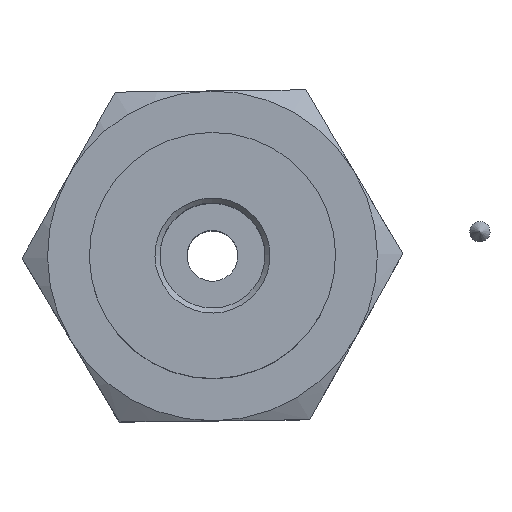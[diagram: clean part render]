
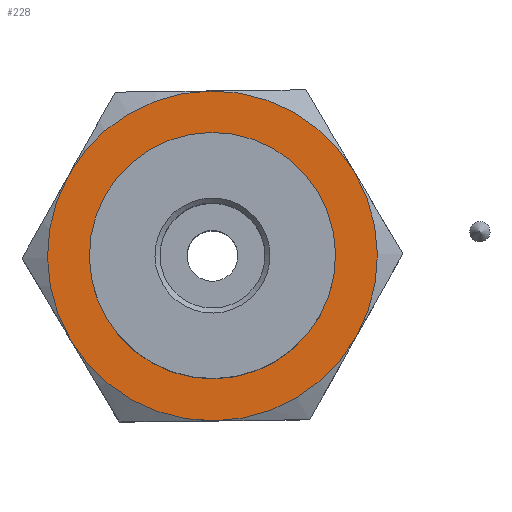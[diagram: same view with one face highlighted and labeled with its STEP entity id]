
A CAD part, top view. The second image highlights one B-rep face of the part: STEP entity #228.
In plain terms, the highlighted planar face has unit normal (0, 0, 1) as drawn and (1, 0, 0) by its records, which use the part's own axes.
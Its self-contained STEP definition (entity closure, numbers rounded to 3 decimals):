
#228=ADVANCED_FACE('',(#468,#469),#470,.F.);
#468=FACE_OUTER_BOUND('',#762,.T.);
#469=FACE_BOUND('',#763,.T.);
#470=PLANE('',#764);
#762=EDGE_LOOP('',(#1136,#1137,#1138,#1139,#1140,#1141));
#763=EDGE_LOOP('',(#1142));
#764=AXIS2_PLACEMENT_3D('',#1143,#1144,#1145);
#1136=ORIENTED_EDGE('',*,*,#1667,.F.);
#1137=ORIENTED_EDGE('',*,*,#1648,.F.);
#1138=ORIENTED_EDGE('',*,*,#1681,.F.);
#1139=ORIENTED_EDGE('',*,*,#1658,.F.);
#1140=ORIENTED_EDGE('',*,*,#1675,.F.);
#1141=ORIENTED_EDGE('',*,*,#1694,.F.);
#1142=ORIENTED_EDGE('',*,*,#1695,.T.);
#1143=CARTESIAN_POINT('',(2.5,11.258,6.5));
#1144=DIRECTION('',(-1.0,0.,0.0));
#1145=DIRECTION('',(0.0,0.0,1.0));
#1648=EDGE_CURVE('',#1881,#1877,#1882,.T.);
#1658=EDGE_CURVE('',#1898,#1894,#1899,.T.);
#1667=EDGE_CURVE('',#1877,#1908,#1912,.T.);
#1675=EDGE_CURVE('',#1920,#1898,#1924,.T.);
#1681=EDGE_CURVE('',#1894,#1881,#1931,.T.);
#1694=EDGE_CURVE('',#1908,#1920,#1950,.T.);
#1695=EDGE_CURVE('',#1951,#1951,#1952,.T.);
#1877=VERTEX_POINT('',#2202);
#1881=VERTEX_POINT('',#2214);
#1882=CIRCLE('',#2215,6.5);
#1894=VERTEX_POINT('',#2241);
#1898=VERTEX_POINT('',#2253);
#1899=CIRCLE('',#2254,6.5);
#1908=VERTEX_POINT('',#2276);
#1912=CIRCLE('',#2288,6.5);
#1920=VERTEX_POINT('',#2305);
#1924=CIRCLE('',#2317,6.5);
#1931=CIRCLE('',#2332,6.5);
#1950=CIRCLE('',#2355,6.5);
#1951=VERTEX_POINT('',#2356);
#1952=CIRCLE('',#2357,4.0);
#2202=CARTESIAN_POINT('',(2.5,-5.629,3.25));
#2214=CARTESIAN_POINT('',(2.5,-5.629,-3.25));
#2215=AXIS2_PLACEMENT_3D('',#2619,#2620,#2621);
#2241=CARTESIAN_POINT('',(2.5,0.,-6.5));
#2253=CARTESIAN_POINT('',(2.5,5.629,-3.25));
#2254=AXIS2_PLACEMENT_3D('',#2624,#2625,#2626);
#2276=CARTESIAN_POINT('',(2.5,0.0,6.5));
#2288=AXIS2_PLACEMENT_3D('',#2628,#2629,#2630);
#2305=CARTESIAN_POINT('',(2.5,5.629,3.25));
#2317=AXIS2_PLACEMENT_3D('',#2632,#2633,#2634);
#2332=AXIS2_PLACEMENT_3D('',#2638,#2639,#2640);
#2355=AXIS2_PLACEMENT_3D('',#2659,#2660,#2661);
#2356=CARTESIAN_POINT('',(2.5,0.0,4.0));
#2357=AXIS2_PLACEMENT_3D('',#2662,#2663,#2664);
#2619=CARTESIAN_POINT('',(2.5,0.,0.0));
#2620=DIRECTION('',(-1.0,0.,0.0));
#2621=DIRECTION('',(0.,-1.0,0.0));
#2624=CARTESIAN_POINT('',(2.5,0.,0.0));
#2625=DIRECTION('',(-1.0,0.,0.0));
#2626=DIRECTION('',(0.,-1.0,0.0));
#2628=CARTESIAN_POINT('',(2.5,0.,0.0));
#2629=DIRECTION('',(-1.0,0.,0.0));
#2630=DIRECTION('',(0.,-1.0,0.0));
#2632=CARTESIAN_POINT('',(2.5,0.,0.0));
#2633=DIRECTION('',(-1.0,0.,0.0));
#2634=DIRECTION('',(0.,-1.0,0.0));
#2638=CARTESIAN_POINT('',(2.5,0.,0.0));
#2639=DIRECTION('',(-1.0,0.,0.0));
#2640=DIRECTION('',(0.,-1.0,0.0));
#2659=CARTESIAN_POINT('',(2.5,0.0,0.0));
#2660=DIRECTION('',(-1.0,0.0,0.0));
#2661=DIRECTION('',(0.0,0.0,1.0));
#2662=CARTESIAN_POINT('',(2.5,0.0,0.0));
#2663=DIRECTION('',(-1.0,0.0,0.0));
#2664=DIRECTION('',(0.0,0.0,1.0));
